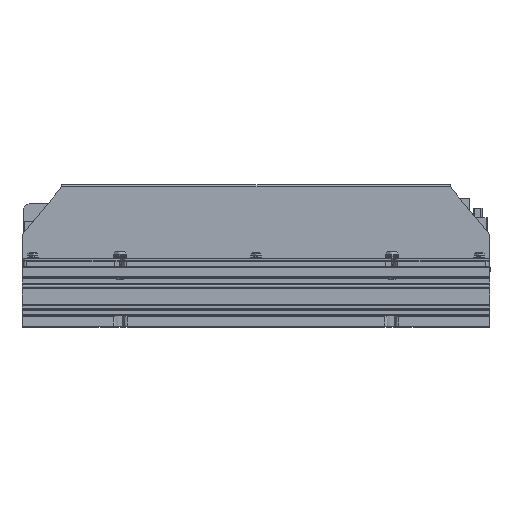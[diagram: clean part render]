
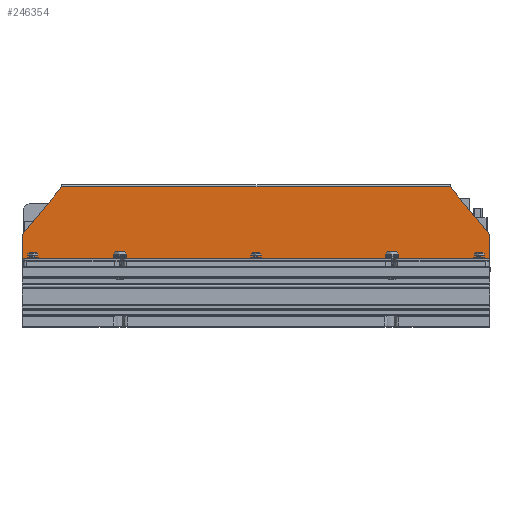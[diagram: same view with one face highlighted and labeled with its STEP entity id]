
A CAD part, top view. The second image highlights one B-rep face of the part: STEP entity #246354.
In plain terms, the highlighted planar face has unit normal (0, 0, 1).
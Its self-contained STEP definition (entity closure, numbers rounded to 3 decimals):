
#2079 = EDGE_CURVE ( 'NONE', #24861, #206168, #266853, .T. ) ;
#6220 = EDGE_LOOP ( 'NONE', ( #115333, #226759, #102575, #269781, #215979, #105404, #190767, #266939 ) ) ;
#11974 = DIRECTION ( 'NONE',  ( 0., -1., 0. ) ) ;
#16697 = VECTOR ( 'NONE', #11974, 1000. ) ;
#22404 = EDGE_CURVE ( 'NONE', #23663, #261694, #257512, .T. ) ;
#23663 = VERTEX_POINT ( 'NONE', #204507 ) ;
#24861 = VERTEX_POINT ( 'NONE', #255875 ) ;
#26206 = VERTEX_POINT ( 'NONE', #205545 ) ;
#33430 = CARTESIAN_POINT ( 'NONE',  ( -100., 71.99, 47.1 ) ) ;
#38489 = CARTESIAN_POINT ( 'NONE',  ( -120., 71.99, 47.1 ) ) ;
#52452 = LINE ( 'NONE', #142636, #177074 ) ;
#57094 = CARTESIAN_POINT ( 'NONE',  ( 120., 71.99, 47.1 ) ) ;
#61346 = VECTOR ( 'NONE', #253890, 1000. ) ;
#62946 = DIRECTION ( 'NONE',  ( 0., 0., -1. ) ) ;
#74593 = VECTOR ( 'NONE', #254479, 1000. ) ;
#83905 = CARTESIAN_POINT ( 'NONE',  ( -120., 35.01, 47.1 ) ) ;
#85115 = PLANE ( 'NONE',  #149611 ) ;
#94249 = AXIS2_PLACEMENT_3D ( 'NONE', #233228, #112762, #261250 ) ;
#94618 = CARTESIAN_POINT ( 'NONE',  ( -100., 71.99, 47.1 ) ) ;
#96182 = LINE ( 'NONE', #183504, #74593 ) ;
#102575 = ORIENTED_EDGE ( 'NONE', *, *, #2079, .F. ) ;
#105404 = ORIENTED_EDGE ( 'NONE', *, *, #184176, .T. ) ;
#105732 = CIRCLE ( 'NONE', #129354, 2. ) ;
#106832 = VECTOR ( 'NONE', #127972, 1000. ) ;
#112762 = DIRECTION ( 'NONE',  ( 0., 0., 1. ) ) ;
#115333 = ORIENTED_EDGE ( 'NONE', *, *, #202483, .F. ) ;
#118984 = DIRECTION ( 'NONE',  ( 1., 0., 0. ) ) ;
#120411 = CARTESIAN_POINT ( 'NONE',  ( 119.536, 48.556, 47.1 ) ) ;
#122135 = LINE ( 'NONE', #33430, #61346 ) ;
#127972 = DIRECTION ( 'NONE',  ( 0., -1., 0. ) ) ;
#129354 = AXIS2_PLACEMENT_3D ( 'NONE', #165820, #145103, #235399 ) ;
#139005 = EDGE_CURVE ( 'NONE', #172335, #24861, #122135, .T. ) ;
#142636 = CARTESIAN_POINT ( 'NONE',  ( -100., 35.01, 47.1 ) ) ;
#145103 = DIRECTION ( 'NONE',  ( 0., 0., 1. ) ) ;
#149611 = AXIS2_PLACEMENT_3D ( 'NONE', #175353, #62946, #176814 ) ;
#156575 = VERTEX_POINT ( 'NONE', #214567 ) ;
#158803 = CARTESIAN_POINT ( 'NONE',  ( 100., 71.99, 47.1 ) ) ;
#165820 = CARTESIAN_POINT ( 'NONE',  ( 118., 47.276, 47.1 ) ) ;
#172335 = VERTEX_POINT ( 'NONE', #94618 ) ;
#175353 = CARTESIAN_POINT ( 'NONE',  ( -100., 71.99, 47.1 ) ) ;
#176814 = DIRECTION ( 'NONE',  ( 0., -1., 0. ) ) ;
#177074 = VECTOR ( 'NONE', #118984, 1000. ) ;
#183504 = CARTESIAN_POINT ( 'NONE',  ( -100., 71.99, 47.1 ) ) ;
#184176 = EDGE_CURVE ( 'NONE', #217921, #23663, #221176, .T. ) ;
#190767 = ORIENTED_EDGE ( 'NONE', *, *, #22404, .T. ) ;
#198847 = DIRECTION ( 'NONE',  ( 0.64, -0.768, 0. ) ) ;
#202483 = EDGE_CURVE ( 'NONE', #26206, #156575, #221153, .T. ) ;
#204507 = CARTESIAN_POINT ( 'NONE',  ( -120., 47.276, 47.1 ) ) ;
#205545 = CARTESIAN_POINT ( 'NONE',  ( 120., 47.276, 47.1 ) ) ;
#206168 = VERTEX_POINT ( 'NONE', #120411 ) ;
#214567 = CARTESIAN_POINT ( 'NONE',  ( 120., 35.01, 47.1 ) ) ;
#215979 = ORIENTED_EDGE ( 'NONE', *, *, #219701, .T. ) ;
#217921 = VERTEX_POINT ( 'NONE', #279727 ) ;
#219701 = EDGE_CURVE ( 'NONE', #172335, #217921, #96182, .T. ) ;
#221153 = LINE ( 'NONE', #57094, #106832 ) ;
#221176 = CIRCLE ( 'NONE', #94249, 2. ) ;
#226759 = ORIENTED_EDGE ( 'NONE', *, *, #237539, .T. ) ;
#233228 = CARTESIAN_POINT ( 'NONE',  ( -118., 47.276, 47.1 ) ) ;
#235399 = DIRECTION ( 'NONE',  ( 0., -1., 0. ) ) ;
#237539 = EDGE_CURVE ( 'NONE', #26206, #206168, #105732, .T. ) ;
#239066 = EDGE_CURVE ( 'NONE', #261694, #156575, #52452, .T. ) ;
#246354 = ADVANCED_FACE ( 'NONE', ( #287789 ), #85115, .F. ) ;
#253890 = DIRECTION ( 'NONE',  ( 1., 0., 0. ) ) ;
#254479 = DIRECTION ( 'NONE',  ( -0.64, -0.768, 0. ) ) ;
#255875 = CARTESIAN_POINT ( 'NONE',  ( 100., 71.99, 47.1 ) ) ;
#257512 = LINE ( 'NONE', #38489, #16697 ) ;
#261250 = DIRECTION ( 'NONE',  ( 0., -1., 0. ) ) ;
#261694 = VERTEX_POINT ( 'NONE', #83905 ) ;
#265907 = VECTOR ( 'NONE', #198847, 1000. ) ;
#266853 = LINE ( 'NONE', #158803, #265907 ) ;
#266939 = ORIENTED_EDGE ( 'NONE', *, *, #239066, .T. ) ;
#269781 = ORIENTED_EDGE ( 'NONE', *, *, #139005, .F. ) ;
#279727 = CARTESIAN_POINT ( 'NONE',  ( -119.536, 48.556, 47.1 ) ) ;
#287789 = FACE_OUTER_BOUND ( 'NONE', #6220, .T. ) ;
